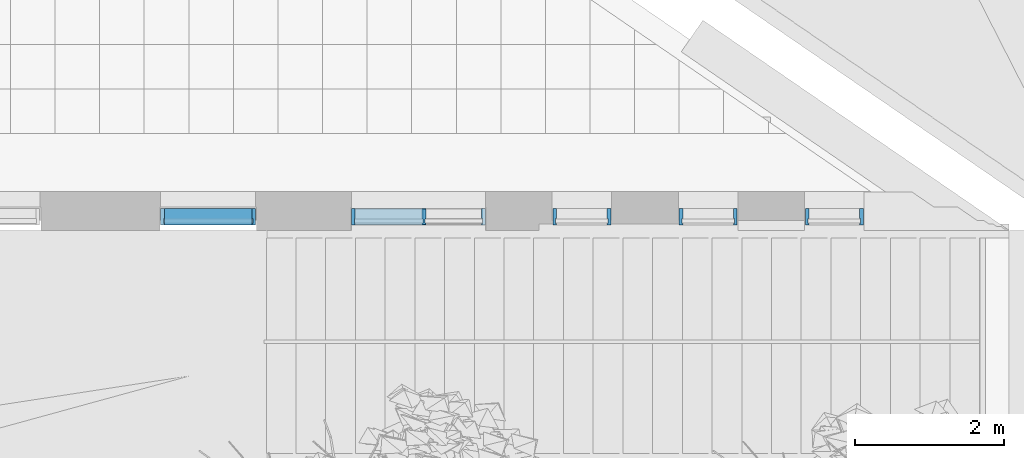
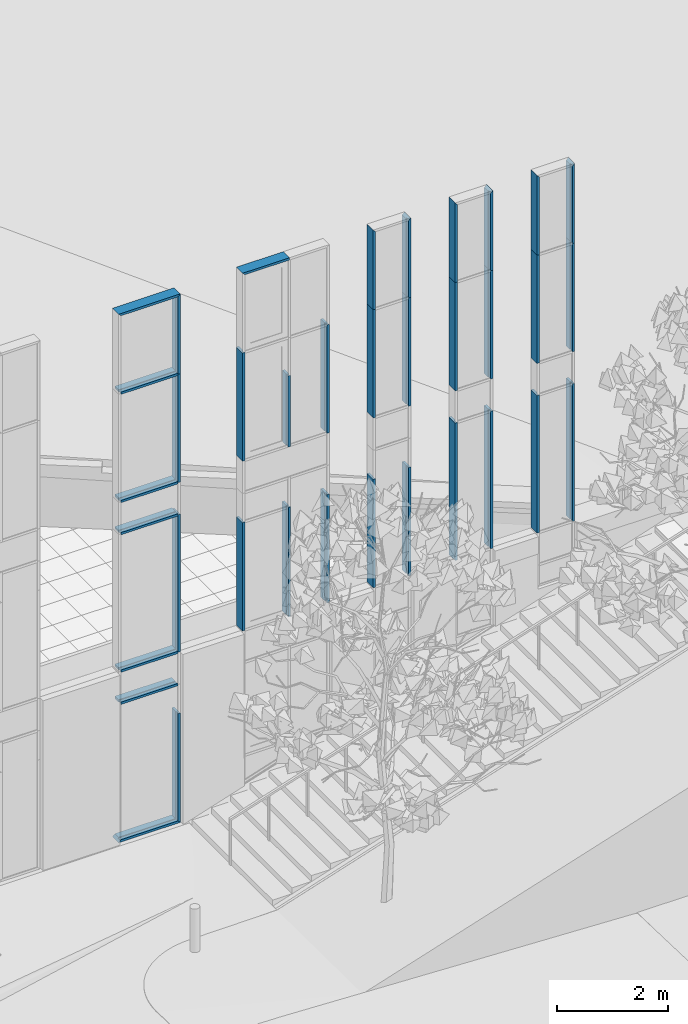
# One storey, part 28 of 246: 36 members, 5 elements without a shape of their own.
"""IFC2X3 building model written with IfcOpenShell, lengths in millimetres."""

from ifc_helpers import new_model, entity, si_unit, converted_unit, derived_unit, money_unit, direction, frame, origin_with_axes, place, context, subcontext, project, spatial, faceted_brep, source, transform, mapped, material, type_object, element, aggregate, save


model = new_model("IFC2X3")

# Units and contexts
model_context = context("Model", 3, precision=0.01, world=origin_with_axes(), true_north=direction((0.0, 1.0)))
body_context = subcontext(model_context, "Body", "Model", "MODEL_VIEW")
ifc_project = project(units=[si_unit("LENGTHUNIT", "METRE", prefix="MILLI"), si_unit("AREAUNIT", "SQUARE_METRE"), si_unit("VOLUMEUNIT", "CUBIC_METRE"), converted_unit("PLANEANGLEUNIT", "DEGREE", entity("IfcPlaneAngleMeasure", 0.0174532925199), si_unit("PLANEANGLEUNIT", "RADIAN"), dimensions=[0, 0, 0, 0, 0, 0, 0]), si_unit("SOLIDANGLEUNIT", "STERADIAN"), money_unit("EUR"), converted_unit("TIMEUNIT", "Year", entity("IfcTimeMeasure", 31556926.0), si_unit("TIMEUNIT", "SECOND"), dimensions=[0, 0, 1, 0, 0, 0, 0]), si_unit("MASSUNIT", "GRAM", prefix="KILO"), si_unit("THERMODYNAMICTEMPERATUREUNIT", "DEGREE_CELSIUS"), si_unit("LUMINOUSINTENSITYUNIT", "LUMEN"), si_unit("ENERGYUNIT", "JOULE", prefix="MEGA"), derived_unit("THERMALCONDUCTANCEUNIT", [(si_unit("POWERUNIT", "WATT"), 1), (si_unit("LENGTHUNIT", "METRE"), -1), (si_unit("THERMODYNAMICTEMPERATUREUNIT", "KELVIN"), -1)]), derived_unit("SPECIFICHEATCAPACITYUNIT", [(si_unit("ENERGYUNIT", "JOULE"), 1), (si_unit("MASSUNIT", "GRAM", prefix="KILO"), -1), (si_unit("THERMODYNAMICTEMPERATUREUNIT", "KELVIN"), -1)]), derived_unit("MASSDENSITYUNIT", [(si_unit("MASSUNIT", "GRAM", prefix="KILO"), 1), (si_unit("VOLUMEUNIT", "CUBIC_METRE"), -1)])], contexts=[model_context])

# Site, building, storey
site_placement = place(None, origin_with_axes())
site = spatial("IfcSite", under=ifc_project, at=site_placement, Name="L.Koidula tn 11b", CompositionType="ELEMENT")
building_placement = place(site_placement, origin_with_axes())
building = spatial("IfcBuilding", under=site, at=building_placement, Name="Rakvere Riigigümnaasium", CompositionType="ELEMENT")
storey_placement = place(building_placement, origin_with_axes())
storey = spatial("IfcBuildingStorey", under=building, at=storey_placement, Name="1.korrus 0,00", CompositionType="ELEMENT", Elevation=0.0)

# Curtain wall, members
curtain_wall_type = type_object("IfcCurtainWallType", Name="Curtain Wall Type", PredefinedType="NOTDEFINED")
curtain_wall_1_placement = place(storey_placement, frame((102199.946081, 5111.65323731, 2560.0), z_axis=(0.0, 0.0, 1.0), x_axis=(1.0, 0.0, 0.0)))
curtain_wall_1 = element("IfcCurtainWall", 1, at=curtain_wall_1_placement, inside=storey, type_object=curtain_wall_type, Name="KLF-05-4A3")
ifc_material = material(Name="Alumiiniumprofiil (RAL 7021)")
member_type_1 = type_object("IfcMemberType", Name="Boundary Frame 50 x 222", PredefinedType="MULLION")
shared_shape_1 = source(origin_with_axes(), body_context, "Body", "Brep", [
    faceted_brep([(37.0, -32.5, 2375.00000025), (37.0, 32.5, 2375.00000025), (50.0, 32.5, 2375.00000025), (50.0, 53.0, 2375.00000025), (0.0, 53.0, 2375.00000025), (0.0, -169.0, 2375.00000025), (50.0, -169.0, 2375.00000025), (50.0, -32.5, 2375.00000025), (37.0, -32.5, -2.4712543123e-07), (37.0, 32.5, -2.4712543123e-07), (50.0, 32.5, -2.47125653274e-07), (50.0, 53.0, -2.47125653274e-07), (0.0, 53.0, -2.47125653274e-07), (0.0, -169.0, -2.47125653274e-07), (50.0, -169.0, -2.47125653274e-07), (50.0, -32.5, -2.47125653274e-07)], [[[0, 1, 2, 3, 4, 5, 6, 7]], [[1, 0, 8, 9]], [[10, 2, 1, 9]], [[2, 10, 11, 3]], [[12, 4, 3, 11]], [[13, 5, 4, 12]], [[14, 6, 5, 13]], [[15, 7, 6, 14]], [[0, 7, 15, 8]], [[8, 15, 14, 13, 12, 11, 10, 9]]]),
])
member_1_placement = place(curtain_wall_1_placement, frame((-389.999808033, 0.0451050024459, 7285.0), z_axis=(0.0, 0.0, -1.0), x_axis=(0.999999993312, -0.00011565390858, 0.0)))
member_1 = element("IfcMember", 2, at=member_1_placement, type_object=member_type_1, material=ifc_material, Name="KLF-05-9A-Profiilid", ObjectType="MULLION", context=body_context, shape_type="MappedRepresentation", body=[
    mapped(shared_shape_1, transform((0.0, 0.0, 0.0))),
])
member_2_placement = place(curtain_wall_1_placement, frame((389.999808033, -0.0451050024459, 4910.0), z_axis=(1.81745283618e-08, 0.0, 1.0), x_axis=(-0.999999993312, 0.00011565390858, 1.81745284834e-08)))
member_2 = element("IfcMember", 3, at=member_2_placement, type_object=member_type_1, material=ifc_material, Name="KLF-05-5A-Profiilid", ObjectType="MULLION", context=body_context, shape_type="MappedRepresentation", body=[
    mapped(shared_shape_1, transform((0.0, 0.0, 0.0))),
])

curtain_wall_2_placement = place(storey_placement, frame((98799.9667993, 5111.45595337, 1534.99996364), z_axis=(0.0, 0.0, 1.0), x_axis=(1.0, 0.0, 0.0)))
curtain_wall_2 = element("IfcCurtainWall", 4, at=curtain_wall_2_placement, inside=storey, type_object=curtain_wall_type, Name="KLF-05-4A1")
member_3_placement = place(curtain_wall_2_placement, frame((-389.999935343, -0.0026063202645, 4585.00002826), z_axis=(0.0, 0.0, -1.0), x_axis=(0.999999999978, 6.68287358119e-06, 0.0)))
member_3 = element("IfcMember", 5, at=member_3_placement, type_object=member_type_1, material=ifc_material, Name="KLF-05-6A-Profiilid", ObjectType="MULLION", context=body_context, shape_type="MappedRepresentation", body=[
    mapped(shared_shape_1, transform((0.0, 0.0, 0.0))),
])
member_4_placement = place(curtain_wall_2_placement, frame((-389.999935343, -0.0026063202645, 8305.00002826), z_axis=(0.0, 0.0, -1.0), x_axis=(0.999999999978, 6.68287358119e-06, 0.0)))
member_4 = element("IfcMember", 6, at=member_4_placement, type_object=member_type_1, material=ifc_material, Name="KLF-05-3A-Profiilid", ObjectType="MULLION", context=body_context, shape_type="MappedRepresentation", body=[
    mapped(shared_shape_1, transform((0.0, 0.0, 0.0))),
])
member_5_placement = place(curtain_wall_2_placement, frame((389.999935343, 0.00260632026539, 5930.00002826), z_axis=(1.8915527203e-08, 0.0, 1.0), x_axis=(-0.999999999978, -6.68287358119e-06, 1.89155272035e-08)))
member_5 = element("IfcMember", 7, at=member_5_placement, type_object=member_type_1, material=ifc_material, Name="KLF-05-9A-Profiilid", ObjectType="MULLION", context=body_context, shape_type="MappedRepresentation", body=[
    mapped(shared_shape_1, transform((0.0, 0.0, 0.0))),
])
member_6_placement = place(curtain_wall_2_placement, frame((389.999935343, 0.00260632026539, 2210.00002826), z_axis=(0.0, 0.0, 1.0), x_axis=(-0.999999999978, -6.68287358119e-06, 0.0)))
member_6 = element("IfcMember", 8, at=member_6_placement, type_object=member_type_1, material=ifc_material, Name="KLF-05-6A-Profiilid", ObjectType="MULLION", context=body_context, shape_type="MappedRepresentation", body=[
    mapped(shared_shape_1, transform((0.0, 0.0, 0.0))),
])

curtain_wall_3_placement = place(storey_placement, frame((100499.941472, 5111.64286466, 2044.99997146), z_axis=(0.0, 0.0, 1.0), x_axis=(1.0, 0.0, 0.0)))
curtain_wall_3 = element("IfcCurtainWall", 9, at=curtain_wall_3_placement, inside=storey, type_object=curtain_wall_type, Name="KLF-05-4A2")
member_7_placement = place(curtain_wall_3_placement, frame((-389.999798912, 0.0554782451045, 7795.0), z_axis=(0.0, 0.0, -1.0), x_axis=(0.999999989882, -0.000142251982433, 0.0)))
member_7 = element("IfcMember", 10, at=member_7_placement, type_object=member_type_1, material=ifc_material, Name="KLF-05-4A-Profiilid", ObjectType="MULLION", context=body_context, shape_type="MappedRepresentation", body=[
    mapped(shared_shape_1, transform((0.0, 0.0, 0.0))),
])
member_8_placement = place(curtain_wall_3_placement, frame((389.999845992, -0.0554782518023, 5420.0), z_axis=(-2.36881664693e-08, 0.0, 1.0), x_axis=(-0.999999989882, 0.000142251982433, -2.36881667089e-08)))
member_8 = element("IfcMember", 11, at=member_8_placement, type_object=member_type_1, material=ifc_material, Name="KLF-05-0A-Profiilid", ObjectType="MULLION", context=body_context, shape_type="MappedRepresentation", body=[
    mapped(shared_shape_1, transform((0.0, 0.0, 0.0))),
])

# Curtain wall, member
curtain_wall_4_placement = place(storey_placement, frame((93770.0000115, 5111.45334637, -1.61944652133e-05), z_axis=(0.0, 0.0, 1.0), x_axis=(1.0, 0.0, 0.0)))
curtain_wall_4 = element("IfcCurtainWall", 12, at=curtain_wall_4_placement, inside=storey, type_object=curtain_wall_type, Name="KLF-05-1E")
member_9_placement = place(curtain_wall_4_placement, frame((640.000084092, 0.0, 7465.0), z_axis=(0.0, 0.0, 1.0), x_axis=(-1.0, 0.0, 0.0)))
member_9 = element("IfcMember", 13, at=member_9_placement, type_object=member_type_1, material=ifc_material, Name="KLF-05-0A-Profiilid", ObjectType="MULLION", context=body_context, shape_type="MappedRepresentation", body=[
    mapped(shared_shape_1, transform((0.0, 0.0, 0.0))),
])

# Curtain wall, members
curtain_wall_5_placement = place(storey_placement, frame((96030.936158, 5111.45334637, 394.620798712), z_axis=(0.0, 0.0, 1.0), x_axis=(1.0, 0.0, 0.0)))
curtain_wall_5 = element("IfcCurtainWall", 14, at=curtain_wall_5_placement, inside=storey, type_object=curtain_wall_type, Name="KLF-05-2C")
member_10_placement = place(curtain_wall_5_placement, frame((1469.06406197, 0.0, 7070.37919319), z_axis=(5.11922854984e-09, 0.0, 1.0), x_axis=(-1.0, 0.0, 5.11922854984e-09)))
member_10 = element("IfcMember", 15, at=member_10_placement, type_object=member_type_1, material=ifc_material, Name="KLF-05-0C-Profiilid", ObjectType="MULLION", context=body_context, shape_type="MappedRepresentation", body=[
    mapped(shared_shape_1, transform((0.0, 0.0, 0.0))),
])
member_11_placement = place(curtain_wall_5_placement, frame((1469.06406197, 0.0, 3350.37919319), z_axis=(0.0, 0.0, 1.0), x_axis=(-1.0, 0.0, 0.0)))
member_11 = element("IfcMember", 16, at=member_11_placement, type_object=member_type_1, material=ifc_material, Name="KLF-05-7C-Profiilid", ObjectType="MULLION", context=body_context, shape_type="MappedRepresentation", body=[
    mapped(shared_shape_1, transform((0.0, 0.0, 0.0))),
])
shared_shape_2 = source(origin_with_axes(), body_context, "Body", "Brep", [
    faceted_brep([(-37.0, -32.5, 2375.0), (-50.0, -32.5, 2375.0), (-50.0, -169.0, 2375.0), (0.0, -169.0, 2375.0), (0.0, 53.0, 2375.0), (-50.0, 53.0, 2375.0), (-50.0, 32.5, 2375.0), (-37.0, 32.5, 2375.0), (-37.0, -32.5, 0.0), (-50.0, -32.5, 0.0), (-50.0, -169.0, 0.0), (0.0, -169.0, 0.0), (0.0, 53.0, 0.0), (-50.0, 53.0, 0.0), (-50.0, 32.5, 0.0), (-37.0, 32.5, 0.0)], [[[0, 1, 2, 3, 4, 5, 6, 7]], [[0, 8, 9, 1]], [[9, 10, 2, 1]], [[10, 11, 3, 2]], [[11, 12, 4, 3]], [[12, 13, 5, 4]], [[6, 5, 13, 14]], [[14, 15, 7, 6]], [[7, 15, 8, 0]], [[8, 15, 14, 13, 12, 11, 10, 9]]]),
])
member_12_placement = place(curtain_wall_5_placement, frame((-330.936039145, 0.0, 3350.37919319), z_axis=(0.0, 0.0, 1.0), x_axis=(-1.0, 0.0, 0.0)))
member_12 = element("IfcMember", 17, at=member_12_placement, type_object=member_type_1, material=ifc_material, Name="KLF-05-8C-Profiilid", ObjectType="MULLION", context=body_context, shape_type="MappedRepresentation", body=[
    mapped(shared_shape_2, transform((0.0, 0.0, 0.0))),
])
member_13_placement = place(curtain_wall_5_placement, frame((-330.936039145, 0.0, 7070.37919319), z_axis=(0.0, 0.0, 1.0), x_axis=(-1.0, 0.0, 0.0)))
member_13 = element("IfcMember", 18, at=member_13_placement, type_object=member_type_1, material=ifc_material, Name="KLF-05-5C-Profiilid", ObjectType="MULLION", context=body_context, shape_type="MappedRepresentation", body=[
    mapped(shared_shape_2, transform((0.0, 0.0, 0.0))),
])

# Member
shared_shape_3 = source(origin_with_axes(), body_context, "Body", "Brep", [
    faceted_brep([(37.0, -32.5, 1712.99983191), (37.0, 32.5, 1712.99983191), (50.0, 32.5, 1699.99983191), (50.0, 53.0, 1699.99983191), (0.0, 53.0, 1749.99983191), (0.0, -169.0, 1749.99983191), (50.0, -169.0, 1699.99983191), (50.0, -32.5, 1699.99983191), (37.0, -32.5, -2.47125875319e-07), (37.0, 32.5, -2.47125875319e-07), (50.0, 32.5, -2.47125764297e-07), (50.0, 53.0, -2.47125764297e-07), (0.0, 53.0, -2.47125764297e-07), (0.0, -169.0, -2.47125764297e-07), (50.0, -169.0, -2.47125764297e-07), (50.0, -32.5, -2.47125764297e-07)], [[[0, 1, 2, 3, 4, 5, 6, 7]], [[1, 0, 8, 9]], [[10, 2, 1, 9]], [[2, 10, 11, 3]], [[12, 4, 3, 11]], [[13, 5, 4, 12]], [[14, 6, 5, 13]], [[15, 7, 6, 14]], [[0, 7, 15, 8]], [[8, 15, 14, 13, 12, 11, 10, 9]]]),
])
member_14_placement = place(curtain_wall_4_placement, frame((640.000084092, 0.0, 9840.0), z_axis=(0.0, 0.0, 1.0), x_axis=(-1.0, 0.0, 0.0)))
member_14 = element("IfcMember", 19, at=member_14_placement, type_object=member_type_1, material=ifc_material, Name="KLF-05-1A-Profiilid", ObjectType="MULLION", context=body_context, shape_type="MappedRepresentation", body=[
    mapped(shared_shape_3, transform((0.0, 0.0, 0.0))),
])

shared_shape_4 = source(origin_with_axes(), body_context, "Body", "Brep", [
    faceted_brep([(37.0, -32.5, 2400.0), (37.0, 32.5, 2400.0), (50.0, 32.5, 2400.0), (50.0, 53.0, 2400.0), (0.0, 53.0, 2400.0), (0.0, -169.0, 2400.0), (50.0, -169.0, 2400.0), (50.0, -32.5, 2400.0), (37.0, -32.5, 37.0), (37.0, 32.5, 37.0), (50.0, 32.5, 50.0), (50.0, 53.0, 50.0), (0.0, 53.0, 0.0), (0.0, -169.0, 0.0), (50.0, -169.0, 50.0), (50.0, -32.5, 50.0)], [[[0, 1, 2, 3, 4, 5, 6, 7]], [[1, 0, 8, 9]], [[10, 2, 1, 9]], [[2, 10, 11, 3]], [[4, 3, 11, 12]], [[5, 4, 12, 13]], [[6, 5, 13, 14]], [[15, 7, 6, 14]], [[0, 7, 15, 8]], [[8, 15, 14, 13, 12, 11, 10, 9]]]),
])
member_15_placement = place(curtain_wall_4_placement, frame((640.000084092, 0.0, 0.0), z_axis=(0.0, 0.0, 1.0), x_axis=(-1.0, 0.0, 0.0)))
member_15 = element("IfcMember", 20, at=member_15_placement, type_object=member_type_1, material=ifc_material, Name="KLF-05-5A-Profiilid", ObjectType="MULLION", context=body_context, shape_type="MappedRepresentation", body=[
    mapped(shared_shape_4, transform((0.0, 0.0, 0.0))),
])

shared_shape_5 = source(origin_with_axes(), body_context, "Body", "Brep", [
    faceted_brep([(37.0, -32.5, 3015.0), (37.0, 32.5, 3015.0), (50.0, 32.5, 3015.0), (50.0, 53.0, 3015.0), (0.0, 53.0, 3015.0), (0.0, -169.0, 3015.0), (50.0, -169.0, 3015.0), (50.0, -32.5, 3015.0), (37.0, -32.5, 0.0), (37.0, 32.5, 0.0), (50.0, 32.5, 0.0), (50.0, 53.0, 0.0), (0.0, 53.0, 0.0), (0.0, -169.0, 0.0), (50.0, -169.0, 0.0), (50.0, -32.5, 0.0)], [[[0, 1, 2, 3, 4, 5, 6, 7]], [[1, 0, 8, 9]], [[10, 2, 1, 9]], [[2, 10, 11, 3]], [[12, 4, 3, 11]], [[13, 5, 4, 12]], [[14, 6, 5, 13]], [[15, 7, 6, 14]], [[0, 7, 15, 8]], [[8, 15, 14, 13, 12, 11, 10, 9]]]),
])
member_16_placement = place(curtain_wall_1_placement, frame((-389.999808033, 0.0451050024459, 4205.0), z_axis=(0.0, 0.0, -1.0), x_axis=(0.999999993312, -0.00011565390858, 0.0)))
member_16 = element("IfcMember", 21, at=member_16_placement, type_object=member_type_1, material=ifc_material, Name="KLF-05-1A-Profiilid", ObjectType="MULLION", context=body_context, shape_type="MappedRepresentation", body=[
    mapped(shared_shape_5, transform((0.0, 0.0, 0.0))),
])

member_17_placement = place(curtain_wall_1_placement, frame((389.999808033, -0.0451050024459, 1190.0), z_axis=(0.0, 0.0, 1.0), x_axis=(-0.999999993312, 0.00011565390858, 0.0)))
member_17 = element("IfcMember", 22, at=member_17_placement, type_object=member_type_1, material=ifc_material, Name="KLF-05-3A-Profiilid", ObjectType="MULLION", context=body_context, shape_type="MappedRepresentation", body=[
    mapped(shared_shape_5, transform((0.0, 0.0, 0.0))),
])

member_18_placement = place(curtain_wall_3_placement, frame((-389.999798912, 0.0554782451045, 4715.0), z_axis=(0.0, 0.0, -1.0), x_axis=(0.999999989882, -0.000142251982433, 0.0)))
member_18 = element("IfcMember", 23, at=member_18_placement, type_object=member_type_1, material=ifc_material, Name="KLF-05-6A-Profiilid", ObjectType="MULLION", context=body_context, shape_type="MappedRepresentation", body=[
    mapped(shared_shape_5, transform((0.0, 0.0, 0.0))),
])

member_19_placement = place(curtain_wall_3_placement, frame((389.999845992, -0.0554782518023, 1700.0), z_axis=(0.0, 0.0, 1.0), x_axis=(-0.999999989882, 0.000142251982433, 0.0)))
member_19 = element("IfcMember", 24, at=member_19_placement, type_object=member_type_1, material=ifc_material, Name="KLF-05-8A-Profiilid", ObjectType="MULLION", context=body_context, shape_type="MappedRepresentation", body=[
    mapped(shared_shape_5, transform((0.0, 0.0, 0.0))),
])

member_20_placement = place(curtain_wall_4_placement, frame((640.000084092, 0.0, 3745.0), z_axis=(0.0, 0.0, 1.0), x_axis=(-1.0, 0.0, 0.0)))
member_20 = element("IfcMember", 25, at=member_20_placement, type_object=member_type_1, material=ifc_material, Name="KLF-05-8A-Profiilid", ObjectType="MULLION", context=body_context, shape_type="MappedRepresentation", body=[
    mapped(shared_shape_5, transform((0.0, 0.0, 0.0))),
])

member_type_2 = type_object("IfcMemberType", Name="Transom Frame 50 x 222", PredefinedType="MULLION")
shared_shape_6 = source(origin_with_axes(), body_context, "Body", "Brep", [
    faceted_brep([(-12.0, -32.5, 1230.00013737), (-25.0, -32.5, 1230.00013737), (-25.0, -169.0, 1230.00013737), (25.0, -169.0, 1230.00013737), (25.0, -32.5, 1230.00013737), (12.0, -32.5, 1230.00013737), (12.0, 32.5, 1230.00013737), (25.0, 32.5, 1230.00013737), (25.0, 53.0, 1230.00013737), (-25.0, 53.0, 1230.00013737), (-25.0, 32.5, 1230.00013737), (-12.0, 32.5, 1230.00013737), (-12.0, -32.5, 50.0), (-25.0, -32.5, 50.0), (-25.0, -169.0, 50.0), (25.0, -169.0, 50.0), (25.0, -32.5, 50.0), (12.0, -32.5, 50.0), (12.0, 32.5, 50.0), (25.0, 32.5, 50.0), (25.0, 53.0, 50.0), (-25.0, 53.0, 50.0), (-25.0, 32.5, 50.0), (-12.0, 32.5, 50.0)], [[[0, 1, 2, 3, 4, 5, 6, 7, 8, 9, 10, 11]], [[1, 0, 12, 13]], [[1, 13, 14, 2]], [[2, 14, 15, 3]], [[4, 3, 15, 16]], [[4, 16, 17, 5]], [[5, 17, 18, 6]], [[7, 6, 18, 19]], [[19, 20, 8, 7]], [[8, 20, 21, 9]], [[22, 10, 9, 21]], [[11, 10, 22, 23]], [[0, 11, 23, 12]], [[23, 22, 21, 20, 19, 18, 17, 16, 15, 14, 13, 12]]]),
])
member_21_placement = place(curtain_wall_4_placement, frame((-640.000084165, 0.0, 3040.0), z_axis=(1.0, 0.0, 0.0), x_axis=(0.0, 0.0, 1.0)))
member_21 = element("IfcMember", 26, at=member_21_placement, type_object=member_type_2, material=ifc_material, Name="KLF-05-0A-Profiilid", ObjectType="MULLION", context=body_context, shape_type="MappedRepresentation", body=[
    mapped(shared_shape_6, transform((0.0, 0.0, 0.0))),
])

member_22_placement = place(curtain_wall_4_placement, frame((-640.000084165, 0.0, 6760.0), z_axis=(1.0, 0.0, 0.0), x_axis=(0.0, 0.0, 1.0)))
member_22 = element("IfcMember", 27, at=member_22_placement, type_object=member_type_2, material=ifc_material, Name="KLF-05-9A-Profiilid", ObjectType="MULLION", context=body_context, shape_type="MappedRepresentation", body=[
    mapped(shared_shape_6, transform((0.0, 0.0, 0.0))),
])

member_23_placement = place(curtain_wall_4_placement, frame((-640.000084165, 0.0, 3745.0), z_axis=(1.0, 0.0, 0.0), x_axis=(0.0, 0.0, 1.0)))
member_23 = element("IfcMember", 28, at=member_23_placement, type_object=member_type_2, material=ifc_material, Name="KLF-05-8A-Profiilid", ObjectType="MULLION", context=body_context, shape_type="MappedRepresentation", body=[
    mapped(shared_shape_6, transform((0.0, 0.0, 0.0))),
])

member_24_placement = place(curtain_wall_4_placement, frame((-640.000084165, 0.0, 7465.0), z_axis=(1.0, 0.0, 0.0), x_axis=(0.0, 0.0, 1.0)))
member_24 = element("IfcMember", 29, at=member_24_placement, type_object=member_type_2, material=ifc_material, Name="KLF-05-9A-Profiilid", ObjectType="MULLION", context=body_context, shape_type="MappedRepresentation", body=[
    mapped(shared_shape_6, transform((0.0, 0.0, 0.0))),
])

member_25_placement = place(curtain_wall_4_placement, frame((-640.000084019, 0.0, 9840.0), z_axis=(1.0, 0.0, 0.0), x_axis=(0.0, 0.0, 1.0)))
member_25 = element("IfcMember", 30, at=member_25_placement, type_object=member_type_2, material=ifc_material, Name="KLF-05-1A-Profiilid", ObjectType="MULLION", context=body_context, shape_type="MappedRepresentation", body=[
    mapped(shared_shape_6, transform((0.0, 0.0, 0.0))),
])

member_type_3 = type_object("IfcMemberType", Name="50 x 208", PredefinedType="MULLION")
shared_shape_7 = source(origin_with_axes(), body_context, "Body", "Brep", [
    faceted_brep([(-12.0, -27.0, 1535.0), (-25.0, -27.0, 1535.0), (-25.0, -160.0, 1535.0), (25.0, -160.0, 1535.0), (25.0, -27.0, 1535.0), (12.0, -27.0, 1535.0), (12.0, 27.0, 1535.0), (25.0, 27.0, 1535.0), (25.0, 48.0, 1535.0), (-25.0, 48.0, 1535.0), (-25.0, 27.0, 1535.0), (-12.0, 27.0, 1535.0), (-12.0, -27.0, -25.0), (-25.0, -27.0, -25.0), (-25.0, -160.0, -25.0), (25.0, -160.0, -25.0), (25.0, -27.0, -25.0), (12.0, -27.0, -25.0), (12.0, 27.0, -25.0), (25.0, 27.0, -25.0), (25.0, 48.0, -25.0), (-25.0, 48.0, -25.0), (-25.0, 27.0, -25.0), (-12.0, 27.0, -25.0)], [[[0, 1, 2, 3, 4, 5, 6, 7, 8, 9, 10, 11]], [[1, 0, 12, 13]], [[1, 13, 14, 2]], [[3, 2, 14, 15]], [[4, 3, 15, 16]], [[4, 16, 17, 5]], [[5, 17, 18, 6]], [[7, 6, 18, 19]], [[19, 20, 8, 7]], [[9, 8, 20, 21]], [[22, 10, 9, 21]], [[11, 10, 22, 23]], [[0, 11, 23, 12]], [[23, 22, 21, 20, 19, 18, 17, 16, 15, 14, 13, 12]]]),
])
member_26_placement = place(curtain_wall_5_placement, frame((644.063960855, 0.0, 7070.37919319), z_axis=(0.0, 0.0, 1.0), x_axis=(-1.0, 0.0, 0.0)))
member_26 = element("IfcMember", 31, at=member_26_placement, type_object=member_type_3, material=ifc_material, Name="KLF-25", ObjectType="MULLION", context=body_context, shape_type="MappedRepresentation", body=[
    mapped(shared_shape_7, transform((0.0, 0.0, 0.0))),
])

member_type_4 = type_object("IfcMemberType", Name="50 x 222", PredefinedType="MULLION")
shared_shape_8 = source(origin_with_axes(), body_context, "Body", "Brep", [
    faceted_brep([(-12.0, -27.0, 2375.0), (-25.0, -27.0, 2375.0), (-25.0, -169.0, 2375.0), (25.0, -169.0, 2375.0), (25.0, -27.0, 2375.0), (12.0, -27.0, 2375.0), (12.0, 27.0, 2375.0), (25.0, 27.0, 2375.0), (25.0, 53.0, 2375.0), (-25.0, 53.0, 2375.0), (-25.0, 27.0, 2375.0), (-12.0, 27.0, 2375.0), (-12.0, -27.0, -25.0), (-25.0, -27.0, -25.0), (-25.0, -169.0, -25.0), (25.0, -169.0, -25.0), (25.0, -27.0, -25.0), (12.0, -27.0, -25.0), (12.0, 27.0, -25.0), (25.0, 27.0, -25.0), (25.0, 53.0, -25.0), (-25.0, 53.0, -25.0), (-25.0, 27.0, -25.0), (-12.0, 27.0, -25.0)], [[[0, 1, 2, 3, 4, 5, 6, 7, 8, 9, 10, 11]], [[1, 0, 12, 13]], [[1, 13, 14, 2]], [[3, 2, 14, 15]], [[4, 3, 15, 16]], [[4, 16, 17, 5]], [[5, 17, 18, 6]], [[7, 6, 18, 19]], [[19, 20, 8, 7]], [[9, 8, 20, 21]], [[22, 10, 9, 21]], [[11, 10, 22, 23]], [[0, 11, 23, 12]], [[23, 22, 21, 20, 19, 18, 17, 16, 15, 14, 13, 12]]]),
])
member_27_placement = place(curtain_wall_5_placement, frame((644.063960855, 0.0, 3350.37919319), z_axis=(0.0, 0.0, 1.0), x_axis=(-1.0, 0.0, 0.0)))
member_27 = element("IfcMember", 32, at=member_27_placement, type_object=member_type_4, material=ifc_material, Name="KLF-67", ObjectType="MULLION", context=body_context, shape_type="MappedRepresentation", body=[
    mapped(shared_shape_8, transform((0.0, 0.0, 0.0))),
])

shared_shape_9 = source(origin_with_axes(), body_context, "Body", "Brep", [
    faceted_brep([(37.0, -32.5, 1243.00013737), (37.0, 32.5, 1243.00013737), (50.0, 32.5, 1230.00013737), (50.0, 53.0, 1230.00013737), (0.0, 53.0, 1280.00013737), (0.0, -169.0, 1280.00013737), (50.0, -169.0, 1230.00013737), (50.0, -32.5, 1230.00013737), (37.0, -32.5, 37.0), (37.0, 32.5, 37.0), (50.0, 32.5, 50.0), (50.0, 53.0, 50.0), (0.0, 53.0, 0.0), (0.0, -169.0, 0.0), (50.0, -169.0, 50.0), (50.0, -32.5, 50.0)], [[[0, 1, 2, 3, 4, 5, 6, 7]], [[1, 0, 8, 9]], [[10, 2, 1, 9]], [[2, 10, 11, 3]], [[4, 3, 11, 12]], [[5, 4, 12, 13]], [[6, 5, 13, 14]], [[15, 7, 6, 14]], [[0, 7, 15, 8]], [[8, 15, 14, 13, 12, 11, 10, 9]]]),
])
member_28_placement = place(curtain_wall_4_placement, frame((-640.000084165, 0.0, 0.0), z_axis=(1.0, 0.0, 0.0), x_axis=(0.0, 0.0, 1.0)))
member_28 = element("IfcMember", 33, at=member_28_placement, type_object=member_type_1, material=ifc_material, Name="KLF-05-4A-Profiilid", ObjectType="MULLION", context=body_context, shape_type="MappedRepresentation", body=[
    mapped(shared_shape_9, transform((0.0, 0.0, 0.0))),
])

member_29_placement = place(curtain_wall_4_placement, frame((640.000084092, 0.0, 11590.0000411), z_axis=(-1.0, 0.0, 0.0), x_axis=(0.0, 0.0, -1.0)))
member_29 = element("IfcMember", 34, at=member_29_placement, type_object=member_type_1, material=ifc_material, Name="KLF-05-2A-Profiilid", ObjectType="MULLION", context=body_context, shape_type="MappedRepresentation", body=[
    mapped(shared_shape_9, transform((0.0, 0.0, 0.0))),
])

aggregate(curtain_wall_4, [member_21, member_22, member_28, member_23, member_15, member_20, member_9, member_24, member_25, member_29, member_14])

shared_shape_10 = source(origin_with_axes(), body_context, "Body", "Brep", [
    faceted_brep([(37.0, -32.5, 1744.99998195), (37.0, 32.5, 1744.99998195), (50.0, 32.5, 1744.99998195), (50.0, 53.0, 1744.99998195), (0.0, 53.0, 1744.99998195), (0.0, -169.0, 1744.99998195), (50.0, -169.0, 1744.99998195), (50.0, -32.5, 1744.99998195), (37.0, -32.5, 37.0000010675), (37.0, 32.5, 37.0000010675), (50.0, 32.5, 50.0000014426), (50.0, 53.0, 50.0000014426), (0.0, 53.0, 0.0), (0.0, -169.0, 0.0), (50.0, -169.0, 50.0000014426), (50.0, -32.5, 50.0000014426)], [[[0, 1, 2, 3, 4, 5, 6, 7]], [[1, 0, 8, 9]], [[10, 2, 1, 9]], [[2, 10, 11, 3]], [[4, 3, 11, 12]], [[5, 4, 12, 13]], [[6, 5, 13, 14]], [[15, 7, 6, 14]], [[0, 7, 15, 8]], [[8, 15, 14, 13, 12, 11, 10, 9]]]),
])
member_30_placement = place(curtain_wall_1_placement, frame((-389.999858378, 0.0451050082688, 9029.99998122), z_axis=(2.88511137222e-08, 0.0, -1.0), x_axis=(0.999999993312, -0.00011565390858, 2.88511139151e-08)))
member_30 = element("IfcMember", 35, at=member_30_placement, type_object=member_type_1, material=ifc_material, Name="KLF-05-8A-Profiilid", ObjectType="MULLION", context=body_context, shape_type="MappedRepresentation", body=[
    mapped(shared_shape_10, transform((0.0, 0.0, 0.0))),
])

member_31_placement = place(curtain_wall_2_placement, frame((-389.999943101, -0.00260632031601, 10050.0000534), z_axis=(4.44579864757e-09, 0.0, -1.0), x_axis=(0.999999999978, 6.68287358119e-06, 4.44579864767e-09)))
member_31 = element("IfcMember", 36, at=member_31_placement, type_object=member_type_1, material=ifc_material, Name="KLF-05-2A-Profiilid", ObjectType="MULLION", context=body_context, shape_type="MappedRepresentation", body=[
    mapped(shared_shape_10, transform((0.0, 0.0, 0.0))),
])

member_32_placement = place(curtain_wall_3_placement, frame((-389.999806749, 0.0554782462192, 9540.0000456), z_axis=(4.49143620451e-09, 0.0, -1.0), x_axis=(0.999999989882, -0.000142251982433, 4.49143624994e-09)))
member_32 = element("IfcMember", 37, at=member_32_placement, type_object=member_type_1, material=ifc_material, Name="KLF-05-3A-Profiilid", ObjectType="MULLION", context=body_context, shape_type="MappedRepresentation", body=[
    mapped(shared_shape_10, transform((0.0, 0.0, 0.0))),
])

shared_shape_11 = source(origin_with_axes(), body_context, "Body", "Brep", [
    faceted_brep([(37.0, -32.5, 1707.99998194), (37.0, 32.5, 1707.99998194), (50.0, 32.5, 1694.99998219), (50.0, 53.0, 1694.99998219), (0.0, 53.0, 1744.99998122), (0.0, -169.0, 1744.99998122), (50.0, -169.0, 1694.99998219), (50.0, -32.5, 1694.99998219), (37.0, -32.5, -9.38332966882e-07), (37.0, 32.5, -9.38332966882e-07), (50.0, 32.5, -9.38332966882e-07), (50.0, 53.0, -9.38332966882e-07), (0.0, 53.0, -9.38332966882e-07), (0.0, -169.0, -9.38332966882e-07), (50.0, -169.0, -9.38332966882e-07), (50.0, -32.5, -9.38332966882e-07)], [[[0, 1, 2, 3, 4, 5, 6, 7]], [[1, 0, 8, 9]], [[10, 2, 1, 9]], [[2, 10, 11, 3]], [[12, 4, 3, 11]], [[13, 5, 4, 12]], [[14, 6, 5, 13]], [[15, 7, 6, 14]], [[0, 7, 15, 8]], [[8, 15, 14, 13, 12, 11, 10, 9]]]),
])
member_33_placement = place(curtain_wall_1_placement, frame((389.999851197, -0.0451050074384, 7285.0), z_axis=(-1.93587920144e-08, 0.0, 1.0), x_axis=(-0.999999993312, 0.00011565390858, -1.93587921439e-08)))
member_33 = element("IfcMember", 38, at=member_33_placement, type_object=member_type_1, material=ifc_material, Name="KLF-05-6A-Profiilid", ObjectType="MULLION", context=body_context, shape_type="MappedRepresentation", body=[
    mapped(shared_shape_11, transform((0.0, 0.0, 0.0))),
])

aggregate(curtain_wall_1, [member_16, member_1, member_2, member_17, member_30, member_33])

member_34_placement = place(curtain_wall_2_placement, frame((389.999980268, 0.00260632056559, 8305.00002826), z_axis=(-2.02685386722e-08, 0.0, 1.0), x_axis=(-0.999999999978, -6.68287358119e-06, -2.02685386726e-08)))
member_34 = element("IfcMember", 39, at=member_34_placement, type_object=member_type_1, material=ifc_material, Name="KLF-05-0A-Profiilid", ObjectType="MULLION", context=body_context, shape_type="MappedRepresentation", body=[
    mapped(shared_shape_11, transform((0.0, 0.0, 0.0))),
])

aggregate(curtain_wall_2, [member_3, member_4, member_5, member_6, member_31, member_34])

member_35_placement = place(curtain_wall_3_placement, frame((389.999789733, -0.0554782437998, 7795.0), z_axis=(1.50114262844e-08, 0.0, 1.0), x_axis=(-0.999999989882, 0.000142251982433, 1.50114264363e-08)))
member_35 = element("IfcMember", 40, at=member_35_placement, type_object=member_type_1, material=ifc_material, Name="KLF-05-1A-Profiilid", ObjectType="MULLION", context=body_context, shape_type="MappedRepresentation", body=[
    mapped(shared_shape_11, transform((0.0, 0.0, 0.0))),
])

aggregate(curtain_wall_3, [member_18, member_7, member_8, member_19, member_32, member_35])

shared_shape_12 = source(origin_with_axes(), body_context, "Body", "Brep", [
    faceted_brep([(37.0, -32.5, 938.0), (37.0, 32.5, 938.0), (50.0, 32.5, 925.0), (50.0, 53.0, 925.0), (0.0, 53.0, 975.0), (0.0, -169.0, 975.0), (50.0, -169.0, 925.0), (50.0, -32.5, 925.0), (37.0, -32.5, 0.0), (37.0, 32.5, 0.0), (50.0, 32.5, 0.0), (50.0, 53.0, 0.0), (0.0, 53.0, 0.0), (0.0, -169.0, 0.0), (50.0, -169.0, 0.0), (50.0, -32.5, 0.0)], [[[0, 1, 2, 3, 4, 5, 6, 7]], [[1, 0, 8, 9]], [[10, 2, 1, 9]], [[2, 10, 11, 3]], [[12, 4, 3, 11]], [[13, 5, 4, 12]], [[14, 6, 5, 13]], [[15, 7, 6, 14]], [[0, 7, 15, 8]], [[8, 15, 14, 13, 12, 11, 10, 9]]]),
])
member_36_placement = place(curtain_wall_5_placement, frame((644.063960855, 0.0, 11195.0000092), z_axis=(-1.0, 0.0, 0.0), x_axis=(0.0, 0.0, -1.0)))
member_36 = element("IfcMember", 41, at=member_36_placement, type_object=member_type_1, material=ifc_material, Name="KLF-05-3C-Profiilid", ObjectType="MULLION", context=body_context, shape_type="MappedRepresentation", body=[
    mapped(shared_shape_12, transform((0.0, 0.0, 0.0))),
])

aggregate(curtain_wall_5, [member_26, member_27, member_12, member_13, member_10, member_11, member_36])

save(model, "model.ifc")
